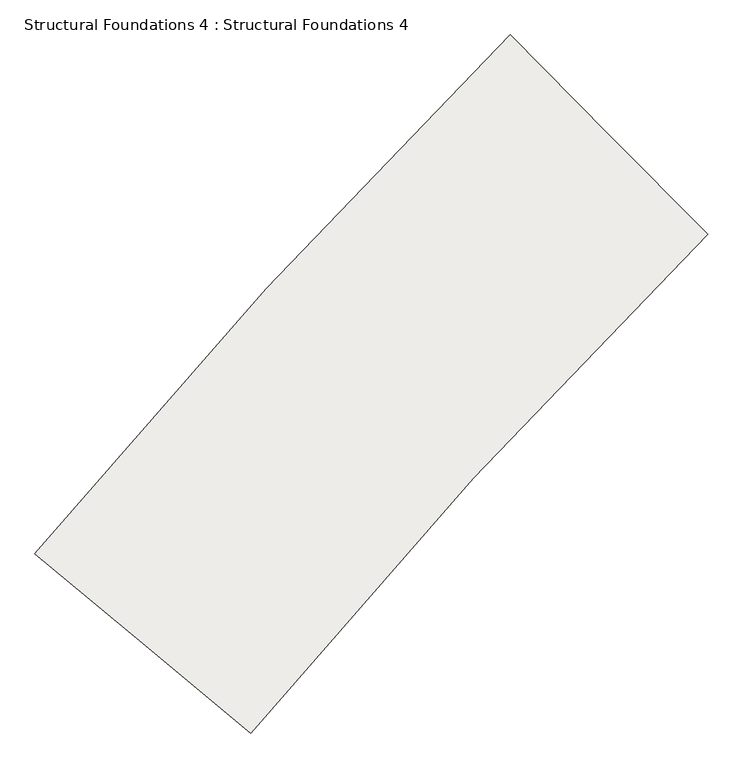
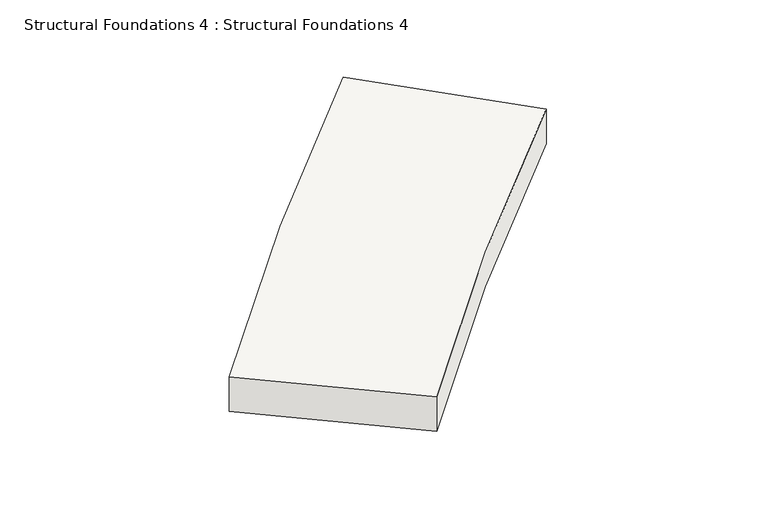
"""IFC4 building model written with IfcOpenShell, lengths in millimetres: slab geometry, Structural Foundations 4 : Structural Foundations 4."""

from ifc_helpers import new_model, si_unit, frame, origin, place, context, project, spatial, source, transform, mapped, element, save
from ifc_brep_helpers import plane_surface, spline_curve, spline_surface, advanced_brep


def structural_foundations_4_structural_foundations_4_7fa5e849(model_context):
    return source(origin(), model_context, "Body", "AdvancedBrep", [
        advanced_brep(
        [(-333108.6072096, -477600.0442876, 634340.0), (-330644.7165949, -480085.8526146, 634340.0), (-330644.7165949, -480085.8526146, 633640.0), (-333108.6072096, -477600.0442876, 633640.0), (-339034.4191181, -484070.4662059, 634250.0), (-339034.4191181, -484070.4662059, 633550.0), (-336342.1106435, -486306.8639965, 633550.0), (-336342.1106435, -486306.8639965, 634250.0)],
        [
            (0, 1),
            (1, 2),
            (2, 3),
            (3, 0),
            (4, 5),
            (5, 6),
            (6, 7),
            (7, 4),
            (7, 1, spline_curve(3, [(-336342.1106435, -486306.8639965, 634250.0), (-335443.398217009, -485224.940605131, 634264.99999983), (-334518.534258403, -484164.740375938, 634280.00000017), (-332618.663362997, -482090.262401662, 634309.99999983), (-331643.656426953, -481075.984657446, 634325.00000017), (-330644.7165949, -480085.8526146, 634340.0)], [4, 2, 4], [0.0, 14.120361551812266, 28.240723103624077])),
            (0, 4, spline_curve(3, [(-333108.6072096, -477600.0442876, 634340.0), (-334147.596175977, -478629.872346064, 634325.00000017), (-335161.6927374, -479684.814146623, 634309.99999983), (-337137.7325682, -481842.461340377, 634280.00000017), (-338099.675838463, -482945.166733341, 634264.99999983), (-339034.4191181, -484070.4662059, 634250.0)], [4, 2, 4], [0.0, 14.120361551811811, 28.240723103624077])),
            (6, 2, spline_curve(3, [(-336342.1106435, -486306.8639965, 633550.0), (-335443.398217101, -485224.940604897, 633564.999999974), (-334518.534258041, -484164.740375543, 633580.000000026), (-332618.663363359, -482090.262402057, 633609.999999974), (-331643.656426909, -481075.984657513, 633625.000000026), (-330644.7165949, -480085.8526146, 633640.0)], [4, 2, 4], [0.0, 13.842900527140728, 27.685801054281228])),
            (5, 3, spline_curve(3, [(-339034.4191181, -484070.4662059, 633550.0), (-338099.675838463, -482945.166733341, 633564.99999983), (-337137.7325682, -481842.461340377, 633580.00000017), (-335161.6927374, -479684.814146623, 633609.99999983), (-334147.596175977, -478629.872346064, 633625.00000017), (-333108.6072096, -477600.0442876, 633640.0)], [4, 2, 4], [0.0, 14.120361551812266, 28.240723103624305])),
        ],
        [
            plane_surface(frame((-331876.6619022, -478842.9484511, 633990.0), z_axis=(0.7102309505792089, 0.7039687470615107, 0.0), x_axis=(0.0, 0.0, -1.0))),
            plane_surface(frame((-337688.2648808, -485188.6651012, 633900.0), z_axis=(-0.6389707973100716, -0.7692309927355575, 0.0), x_axis=(0.7692309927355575, -0.6389707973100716, 0.0))),
            spline_surface(3, 3, [[(-339034.4191181, -484070.4662059, 634250.0), (-338099.675838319, -482945.166733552, 634265.0), (-337137.732568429, -481842.461340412, 634280.0), (-335161.692737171, -479684.814146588, 634310.0), (-334147.596175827, -478629.87234588, 634325.0), (-333108.6072096, -477600.0442876, 634340.0)], [(-338585.701039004, -484443.199170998, 634250.0), (-337656.962901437, -483325.129045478, 634265.0), (-336701.199516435, -482229.507845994, 634280.0), (-334737.854508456, -480085.722189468, 634310.0), (-333730.272884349, -479037.557731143, 634325.0), (-332697.958773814, -478014.345675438, 634340.0)], [(-338136.982959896, -484815.932136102, 634250.0), (-337214.249964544, -483705.091357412, 634265.0), (-336264.66646527, -482616.554352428, 634280.0), (-334314.016278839, -480486.630231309, 634310.0), (-333312.949592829, -479445.243116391, 634325.0), (-332287.310337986, -478428.647063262, 634340.0)], [(-337239.546801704, -485561.398066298, 634250.0), (-336328.824090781, -484465.015981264, 634265.0), (-335391.600361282, -483390.647363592, 634280.0), (-333466.339821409, -481288.44631707, 634310.0), (-332478.303009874, -480260.613886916, 634325.0), (-331466.013466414, -479257.249838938, 634340.0)], [(-336790.828722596, -485934.131031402, 634250.0), (-335886.111153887, -484844.978293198, 634265.0), (-334955.067310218, -483777.693870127, 634280.0), (-333042.501591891, -481689.354359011, 634310.0), (-332060.979718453, -480668.299272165, 634325.0), (-331055.365030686, -479671.551226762, 634340.0)], [(-336342.1106435, -486306.8639965, 634250.0), (-335443.398217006, -485224.940605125, 634265.0), (-334518.534258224, -484164.740375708, 634280.0), (-332618.663363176, -482090.262401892, 634310.0), (-331643.656426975, -481075.984657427, 634325.0), (-330644.7165949, -480085.8526146, 634340.0)]], [4, 2, 4], [4, 2, 4], [0.0, 5.741469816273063, 11.482939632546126], [0.0, 14.120361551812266, 28.240723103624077]),
            spline_surface(3, 3, [[(-336342.1106435, -486306.8639965, 634250.0), (-335443.398217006, -485224.940605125, 634265.0), (-334518.534258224, -484164.740375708, 634280.0), (-332618.663363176, -482090.262401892, 634310.0), (-331643.656426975, -481075.984657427, 634325.0), (-330644.7165949, -480085.8526146, 634340.0)], [(-336342.1106435, -486306.8639965, 634133.333333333), (-335443.398217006, -485224.940605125, 634148.333333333), (-334518.534258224, -484164.740375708, 634163.333333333), (-332618.663363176, -482090.262401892, 634193.333333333), (-331643.656426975, -481075.984657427, 634208.333333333), (-330644.7165949, -480085.8526146, 634223.333333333)], [(-336342.1106435, -486306.8639965, 634016.666666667), (-335443.398217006, -485224.940605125, 634031.666666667), (-334518.534258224, -484164.740375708, 634046.666666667), (-332618.663363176, -482090.262401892, 634076.666666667), (-331643.656426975, -481075.984657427, 634091.666666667), (-330644.7165949, -480085.8526146, 634106.666666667)], [(-336342.1106435, -486306.8639965, 633783.333333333), (-335443.398217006, -485224.940605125, 633798.333333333), (-334518.534258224, -484164.740375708, 633813.333333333), (-332618.663363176, -482090.262401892, 633843.333333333), (-331643.656426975, -481075.984657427, 633858.333333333), (-330644.7165949, -480085.8526146, 633873.333333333)], [(-336342.1106435, -486306.8639965, 633666.666666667), (-335443.398217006, -485224.940605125, 633681.666666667), (-334518.534258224, -484164.740375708, 633696.666666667), (-332618.663363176, -482090.262401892, 633726.666666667), (-331643.656426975, -481075.984657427, 633741.666666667), (-330644.7165949, -480085.8526146, 633756.666666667)], [(-336342.1106435, -486306.8639965, 633550.0), (-335443.398217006, -485224.940605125, 633565.0), (-334518.534258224, -484164.740375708, 633580.0), (-332618.663363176, -482090.262401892, 633610.0), (-331643.656426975, -481075.984657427, 633625.0), (-330644.7165949, -480085.8526146, 633640.0)]], [4, 2, 4], [4, 2, 4], [0.0, 1.1482939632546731, 2.2965879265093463], [0.0, 13.842900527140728, 27.685801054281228]),
            spline_surface(3, 3, [[(-336342.1106435, -486306.8639965, 633550.0), (-335443.398217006, -485224.940605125, 633565.0), (-334518.534258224, -484164.740375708, 633580.0), (-332618.663363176, -482090.262401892, 633610.0), (-331643.656426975, -481075.984657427, 633625.0), (-330644.7165949, -480085.8526146, 633640.0)], [(-336790.828722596, -485934.131031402, 633550.0), (-335886.111153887, -484844.978293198, 633565.0), (-334955.067310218, -483777.693870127, 633580.0), (-333042.501591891, -481689.354359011, 633610.0), (-332060.979718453, -480668.299272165, 633625.0), (-331055.365030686, -479671.551226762, 633640.0)], [(-337239.546801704, -485561.398066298, 633550.0), (-336328.824090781, -484465.015981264, 633565.0), (-335391.600361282, -483390.647363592, 633580.0), (-333466.339821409, -481288.44631707, 633610.0), (-332478.303009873, -480260.613886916, 633625.0), (-331466.013466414, -479257.249838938, 633640.0)], [(-338136.982959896, -484815.932136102, 633550.0), (-337214.249964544, -483705.091357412, 633565.0), (-336264.66646527, -482616.554352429, 633580.0), (-334314.016278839, -480486.630231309, 633610.0), (-333312.949592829, -479445.243116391, 633625.0), (-332287.310337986, -478428.647063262, 633640.0)], [(-338585.701039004, -484443.199170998, 633550.0), (-337656.962901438, -483325.129045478, 633565.0), (-336701.199516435, -482229.507845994, 633580.0), (-334737.854508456, -480085.722189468, 633610.0), (-333730.272884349, -479037.557731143, 633625.0), (-332697.958773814, -478014.345675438, 633640.0)], [(-339034.4191181, -484070.4662059, 633550.0), (-338099.675838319, -482945.166733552, 633565.0), (-337137.732568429, -481842.461340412, 633580.0), (-335161.692737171, -479684.814146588, 633610.0), (-334147.596175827, -478629.87234588, 633625.0), (-333108.6072096, -477600.0442876, 633640.0)]], [4, 2, 4], [4, 2, 4], [0.0, 5.741469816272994, 11.482939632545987], [0.0, 14.120361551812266, 28.240723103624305]),
            spline_surface(3, 3, [[(-339034.4191181, -484070.4662059, 633550.0), (-338099.675838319, -482945.166733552, 633565.0), (-337137.732568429, -481842.461340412, 633580.0), (-335161.692737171, -479684.814146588, 633610.0), (-334147.596175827, -478629.87234588, 633625.0), (-333108.6072096, -477600.0442876, 633640.0)], [(-339034.4191181, -484070.4662059, 633666.666666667), (-338099.675838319, -482945.166733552, 633681.666666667), (-337137.732568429, -481842.461340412, 633696.666666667), (-335161.692737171, -479684.814146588, 633726.666666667), (-334147.596175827, -478629.87234588, 633741.666666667), (-333108.6072096, -477600.0442876, 633756.666666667)], [(-339034.4191181, -484070.4662059, 633783.333333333), (-338099.675838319, -482945.166733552, 633798.333333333), (-337137.732568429, -481842.461340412, 633813.333333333), (-335161.692737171, -479684.814146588, 633843.333333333), (-334147.596175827, -478629.87234588, 633858.333333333), (-333108.6072096, -477600.0442876, 633873.333333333)], [(-339034.4191181, -484070.4662059, 634016.666666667), (-338099.675838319, -482945.166733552, 634031.666666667), (-337137.732568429, -481842.461340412, 634046.666666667), (-335161.692737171, -479684.814146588, 634076.666666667), (-334147.596175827, -478629.87234588, 634091.666666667), (-333108.6072096, -477600.0442876, 634106.666666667)], [(-339034.4191181, -484070.4662059, 634133.333333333), (-338099.675838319, -482945.166733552, 634148.333333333), (-337137.732568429, -481842.461340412, 634163.333333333), (-335161.692737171, -479684.814146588, 634193.333333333), (-334147.596175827, -478629.87234588, 634208.333333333), (-333108.6072096, -477600.0442876, 634223.333333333)], [(-339034.4191181, -484070.4662059, 634250.0), (-338099.675838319, -482945.166733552, 634265.0), (-337137.732568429, -481842.461340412, 634280.0), (-335161.692737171, -479684.814146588, 634310.0), (-334147.596175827, -478629.87234588, 634325.0), (-333108.6072096, -477600.0442876, 634340.0)]], [4, 2, 4], [4, 2, 4], [0.0, 1.1482939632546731, 2.2965879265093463], [0.0, 14.397823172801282, 28.79564634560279]),
        ],
        [
            (0, [[1, 2, 3, 4]]),
            (1, [[5, 6, 7, 8]]),
            (2, [[-8, 9, -1, 10]]),
            (3, [[-7, 11, -2, -9]]),
            (4, [[-6, 12, -3, -11]]),
            (5, [[-5, -10, -4, -12]]),
        ],
    ),
    ])


if __name__ == "__main__":
    model = new_model("IFC4")
    model_context = context("Model", 3, world=origin())
    ifc_project = project(units=[si_unit("LENGTHUNIT", "METRE", prefix="MILLI")], contexts=[model_context])
    site = spatial("IfcSite", under=ifc_project)
    building = spatial("IfcBuilding", under=site)
    placement = place(None, origin())
    structural_foundations_4_structural_foundations_4_shape = structural_foundations_4_structural_foundations_4_7fa5e849(model_context)
    element("IfcSlab", 1, ObjectType="Structural Foundations 4 : Structural Foundations 4", at=placement, inside=building, context=model_context, shape_type="MappedRepresentation", body=[
        mapped(structural_foundations_4_structural_foundations_4_shape, transform((0.0, 0.0, 0.0), x_axis=(1.0, 0.0, 0.0), y_axis=(0.0, 1.0, 0.0), z_axis=(0.0, 0.0, 1.0))),
    ])
    save(model, "model.ifc")
